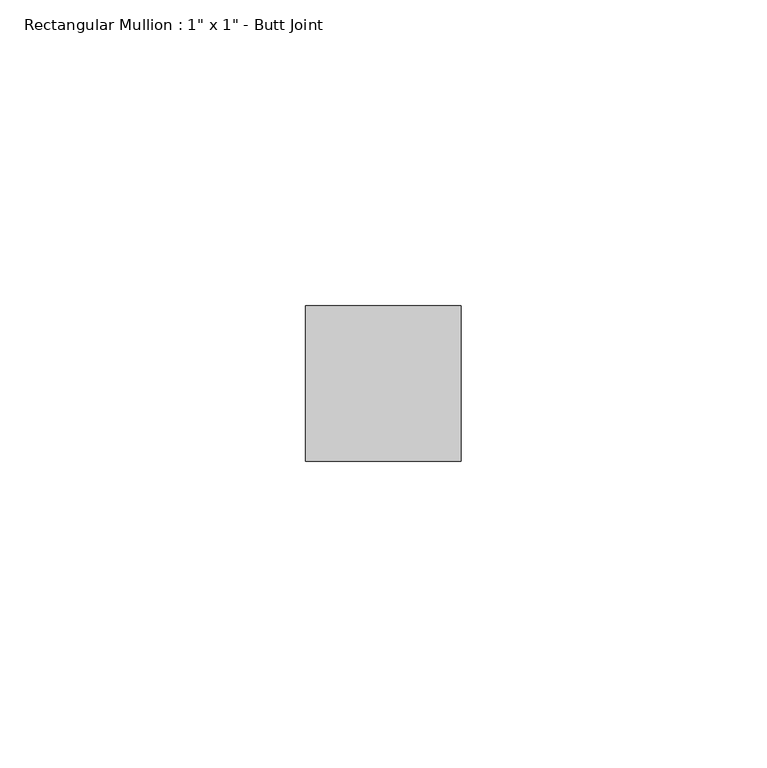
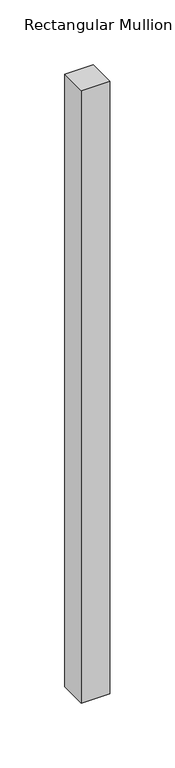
"""IFC4 building model written with IfcOpenShell, lengths in millimetres: member geometry."""

from ifc_helpers import new_model, si_unit, frame, origin, place, context, project, spatial, polyline, outline, extrude, source, transform, mapped, element, save


def member_9f48436b(model_context):
    return source(origin(), model_context, "Body", "SweptSolid", [
        extrude(outline(polyline([(12.7, 12.7), (12.7, -12.7), (-12.7, -12.7), (-12.7, 12.7), (12.7, 12.7)])), frame((0.0, 0.0, -575.7456956), z_axis=(0.0, 0.0, 1.0), x_axis=(1.0, 0.0, 0.0)), (0.0, 0.0, 1.0), 575.7456956),
    ])


if __name__ == "__main__":
    model = new_model("IFC4")
    model_context = context("Model", 3, world=origin())
    ifc_project = project(units=[si_unit("LENGTHUNIT", "METRE", prefix="MILLI")], contexts=[model_context])
    site = spatial("IfcSite", under=ifc_project)
    building = spatial("IfcBuilding", under=site)
    placement = place(None, origin())
    member_shape = member_9f48436b(model_context)
    element("IfcMember", 1, ObjectType="Rectangular Mullion : 1\" x 1\" - Butt Joint", at=placement, inside=building, context=model_context, shape_type="MappedRepresentation", body=[
        mapped(member_shape, transform((0.0, 0.0, 0.0), x_axis=(1.0, 0.0, 0.0), y_axis=(0.0, 1.0, 0.0), z_axis=(0.0, 0.0, 1.0))),
    ])
    save(model, "model.ifc")
